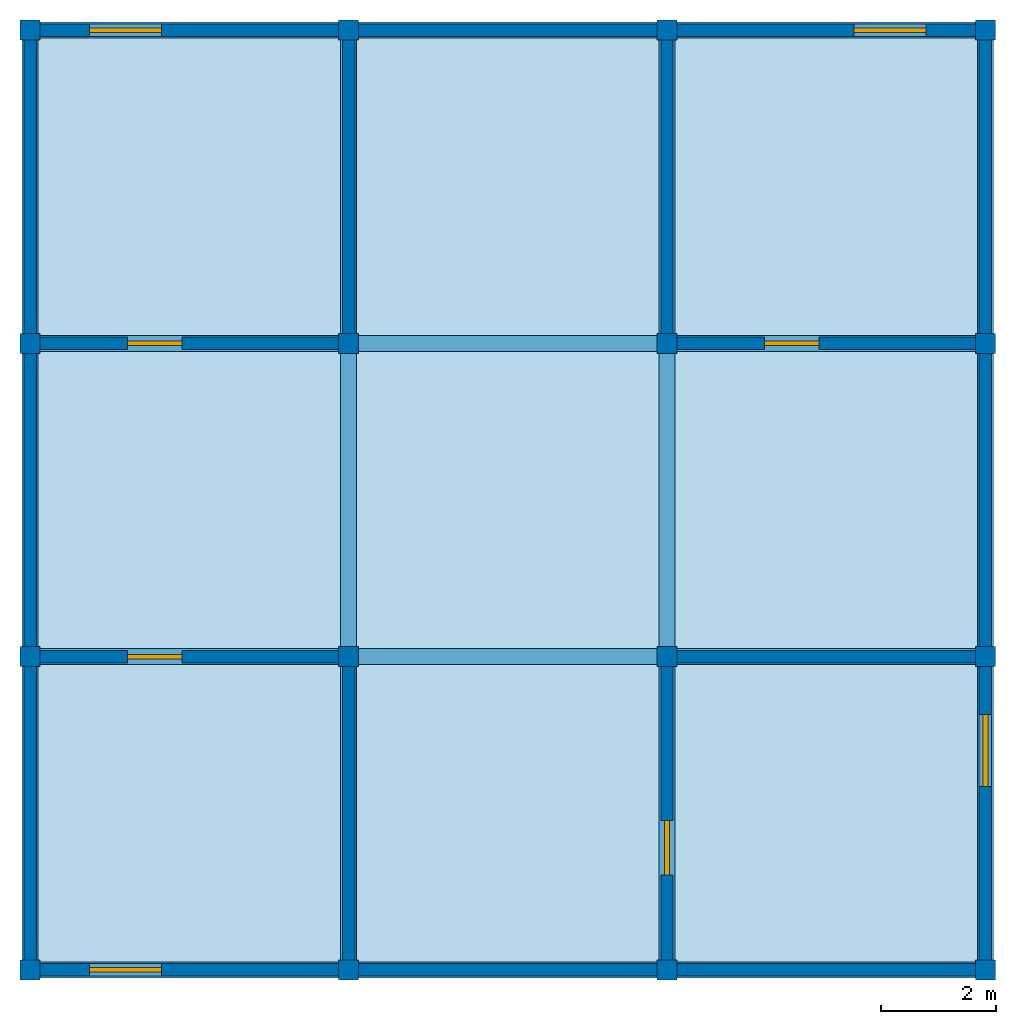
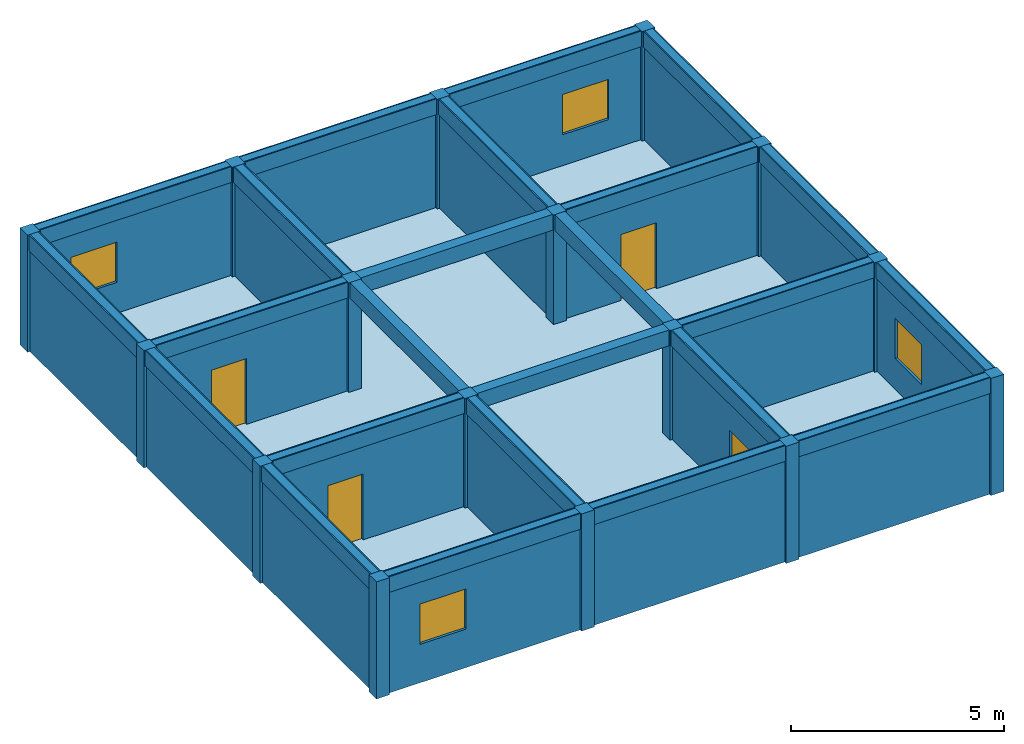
# One storey: 24 beams, 20 walls, 16 columns, 4 doors, 4 windows, 1 slab, 8 openings.
"""IFC4X3 building model written with IfcOpenShell, lengths in metres."""

from ifc_helpers import new_model, si_unit, frame, origin_with_axes, origin_2d, place, context, project, spatial, rectangle, extrude, material, element, fill, save


model = new_model("IFC4X3")

# Units and contexts
model_context = context("Model", 3, precision=1e-05, world=origin_with_axes())
ifc_project = project(units=[si_unit("LENGTHUNIT", "METRE"), si_unit("AREAUNIT", "SQUARE_METRE"), si_unit("VOLUMEUNIT", "CUBIC_METRE")], contexts=[model_context])

# Site, building, storey
site = spatial("IfcSite", under=ifc_project, Name="La Serena Parcel", CompositionType="ELEMENT")
building = spatial("IfcBuilding", under=site, Name="Atlas Building", CompositionType="ELEMENT")
storey = spatial("IfcBuildingStorey", under=building, Name="Level 9", CompositionType="ELEMENT", Elevation=26.79)

# Columns
ifc_material_1 = material(Name="Timber")
column_1_placement = place(None, frame((-8.31, -8.175, 26.792), z_axis=(0.0, 0.0, 1.0), x_axis=(1.0, 0.0, 0.0)))
element("IfcColumn", 1, at=column_1_placement, inside=storey, material=ifc_material_1, Name="Column 9.1", ObjectType="Facade Column", PredefinedType="USERDEFINED", context=model_context, shape_type="SweptSolid", body=[
    extrude(rectangle(XDim=0.35, YDim=0.35, at=origin_2d()), origin_with_axes(), (0.0, 0.0, 1.0), 3.349),
])
column_2_placement = place(None, frame((-8.31, -2.725, 26.792), z_axis=(0.0, 0.0, 1.0), x_axis=(1.0, 0.0, 0.0)))
element("IfcColumn", 2, at=column_2_placement, inside=storey, material=ifc_material_1, Name="Column 9.2", ObjectType="Corner Column", PredefinedType="COLUMN", context=model_context, shape_type="SweptSolid", body=[
    extrude(rectangle(XDim=0.35, YDim=0.35, at=origin_2d()), origin_with_axes(), (0.0, 0.0, 1.0), 3.349),
])
column_3_placement = place(None, frame((-8.31, 2.725, 26.792), z_axis=(0.0, 0.0, 1.0), x_axis=(1.0, 0.0, 0.0)))
element("IfcColumn", 3, at=column_3_placement, inside=storey, material=ifc_material_1, Name="Column 9.3", ObjectType="Core Column", PredefinedType="USERDEFINED", context=model_context, shape_type="SweptSolid", body=[
    extrude(rectangle(XDim=0.35, YDim=0.35, at=origin_2d()), origin_with_axes(), (0.0, 0.0, 1.0), 3.349),
])
column_4_placement = place(None, frame((-8.31, 8.175, 26.792), z_axis=(0.0, 0.0, 1.0), x_axis=(1.0, 0.0, 0.0)))
element("IfcColumn", 4, at=column_4_placement, inside=storey, material=ifc_material_1, Name="Column 9.4", ObjectType="Corner Column", PredefinedType="COLUMN", context=model_context, shape_type="SweptSolid", body=[
    extrude(rectangle(XDim=0.35, YDim=0.35, at=origin_2d()), origin_with_axes(), (0.0, 0.0, 1.0), 3.349),
])
column_5_placement = place(None, frame((-2.77, -8.175, 26.792), z_axis=(0.0, 0.0, 1.0), x_axis=(1.0, 0.0, 0.0)))
element("IfcColumn", 5, at=column_5_placement, inside=storey, material=ifc_material_1, Name="Column 9.5", ObjectType="Facade Column", PredefinedType="NOTDEFINED", context=model_context, shape_type="SweptSolid", body=[
    extrude(rectangle(XDim=0.35, YDim=0.35, at=origin_2d()), origin_with_axes(), (0.0, 0.0, 1.0), 3.349),
])
column_6_placement = place(None, frame((-2.77, -2.725, 26.792), z_axis=(0.0, 0.0, 1.0), x_axis=(1.0, 0.0, 0.0)))
element("IfcColumn", 6, at=column_6_placement, inside=storey, material=ifc_material_1, Name="Column 9.6", ObjectType="Structural Column", PredefinedType="COLUMN", context=model_context, shape_type="SweptSolid", body=[
    extrude(rectangle(XDim=0.35, YDim=0.35, at=origin_2d()), origin_with_axes(), (0.0, 0.0, 1.0), 3.349),
])
for number, where, z_axis, x_axis, name in (
    (7, (-2.77, 2.725, 26.792), (0.0, 0.0, 1.0), (1.0, 0.0, 0.0), "Column 9.7"),
    (8, (-2.77, 8.175, 26.792), (0.0, 0.0, 1.0), (1.0, 0.0, 0.0), "Column 9.8"),
):
    element("IfcColumn", number, at=place(None, frame(where, z_axis=z_axis, x_axis=x_axis)), inside=storey, material=ifc_material_1, Name=name, ObjectType="Core Column", PredefinedType="COLUMN", context=model_context, shape_type="SweptSolid", body=[
        extrude(rectangle(XDim=0.35, YDim=0.35, at=origin_2d()), origin_with_axes(), (0.0, 0.0, 1.0), 3.349),
    ])
column_7_placement = place(None, frame((2.77, -8.175, 26.792), z_axis=(0.0, 0.0, 1.0), x_axis=(1.0, 0.0, 0.0)))
element("IfcColumn", 9, at=column_7_placement, inside=storey, material=ifc_material_1, Name="Column 9.9", ObjectType="Facade Column", PredefinedType="COLUMN", context=model_context, shape_type="SweptSolid", body=[
    extrude(rectangle(XDim=0.35, YDim=0.35, at=origin_2d()), origin_with_axes(), (0.0, 0.0, 1.0), 3.349),
])
column_8_placement = place(None, frame((2.77, -2.725, 26.792), z_axis=(0.0, 0.0, 1.0), x_axis=(1.0, 0.0, 0.0)))
element("IfcColumn", 10, at=column_8_placement, inside=storey, material=ifc_material_1, Name="Column 9.10", ObjectType="Facade Column", PredefinedType="NOTDEFINED", context=model_context, shape_type="SweptSolid", body=[
    extrude(rectangle(XDim=0.35, YDim=0.35, at=origin_2d()), origin_with_axes(), (0.0, 0.0, 1.0), 3.349),
])
column_9_placement = place(None, frame((2.77, 2.725, 26.792), z_axis=(0.0, 0.0, 1.0), x_axis=(1.0, 0.0, 0.0)))
element("IfcColumn", 11, at=column_9_placement, inside=storey, material=ifc_material_1, Name="Column 9.11", ObjectType="Core Column", PredefinedType="NOTDEFINED", context=model_context, shape_type="SweptSolid", body=[
    extrude(rectangle(XDim=0.35, YDim=0.35, at=origin_2d()), origin_with_axes(), (0.0, 0.0, 1.0), 3.349),
])
column_10_placement = place(None, frame((2.77, 8.175, 26.792), z_axis=(0.0, 0.0, 1.0), x_axis=(1.0, 0.0, 0.0)))
element("IfcColumn", 12, at=column_10_placement, inside=storey, material=ifc_material_1, Name="Column 9.12", ObjectType="Corner Column", PredefinedType="NOTDEFINED", context=model_context, shape_type="SweptSolid", body=[
    extrude(rectangle(XDim=0.35, YDim=0.35, at=origin_2d()), origin_with_axes(), (0.0, 0.0, 1.0), 3.349),
])
column_11_placement = place(None, frame((8.31, -8.175, 26.792), z_axis=(0.0, 0.0, 1.0), x_axis=(1.0, 0.0, 0.0)))
element("IfcColumn", 13, at=column_11_placement, inside=storey, material=ifc_material_1, Name="Column 9.13", ObjectType="Corner Column", PredefinedType="PILASTER", context=model_context, shape_type="SweptSolid", body=[
    extrude(rectangle(XDim=0.35, YDim=0.35, at=origin_2d()), origin_with_axes(), (0.0, 0.0, 1.0), 3.349),
])
column_12_placement = place(None, frame((8.31, -2.725, 26.792), z_axis=(0.0, 0.0, 1.0), x_axis=(1.0, 0.0, 0.0)))
element("IfcColumn", 14, at=column_12_placement, inside=storey, material=ifc_material_1, Name="Column 9.14", ObjectType="Structural Column", PredefinedType="NOTDEFINED", context=model_context, shape_type="SweptSolid", body=[
    extrude(rectangle(XDim=0.35, YDim=0.35, at=origin_2d()), origin_with_axes(), (0.0, 0.0, 1.0), 3.349),
])
column_13_placement = place(None, frame((8.31, 2.725, 26.792), z_axis=(0.0, 0.0, 1.0), x_axis=(1.0, 0.0, 0.0)))
element("IfcColumn", 15, at=column_13_placement, inside=storey, material=ifc_material_1, Name="Column 9.15", ObjectType="Corner Column", PredefinedType="COLUMN", context=model_context, shape_type="SweptSolid", body=[
    extrude(rectangle(XDim=0.35, YDim=0.35, at=origin_2d()), origin_with_axes(), (0.0, 0.0, 1.0), 3.349),
])
column_14_placement = place(None, frame((8.31, 8.175, 26.792), z_axis=(0.0, 0.0, 1.0), x_axis=(1.0, 0.0, 0.0)))
element("IfcColumn", 16, at=column_14_placement, inside=storey, material=ifc_material_1, Name="Column 9.16", ObjectType="Structural Column", PredefinedType="PILASTER", context=model_context, shape_type="SweptSolid", body=[
    extrude(rectangle(XDim=0.35, YDim=0.35, at=origin_2d()), origin_with_axes(), (0.0, 0.0, 1.0), 3.349),
])

# Beams
ifc_material_2 = material(Name="Concrete")
beam_1_placement = place(None, frame((-5.54, -8.175, 29.691), z_axis=(0.0, 0.0, 1.0), x_axis=(1.0, 0.0, 0.0)))
element("IfcBeam", 17, at=beam_1_placement, inside=storey, material=ifc_material_2, Name="Beam 9.1", ObjectType="Secondary Beam", PredefinedType="HOLLOWCORE", context=model_context, shape_type="SweptSolid", body=[
    extrude(rectangle(XDim=5.54, YDim=0.28, at=origin_2d()), origin_with_axes(), (0.0, 0.0, 1.0), 0.45),
])
beam_2_placement = place(None, frame((0.0, -8.175, 29.691), z_axis=(0.0, 0.0, 1.0), x_axis=(1.0, 0.0, 0.0)))
element("IfcBeam", 18, at=beam_2_placement, inside=storey, material=ifc_material_2, Name="Beam 9.2", ObjectType="Ridge Beam", PredefinedType="NOTDEFINED", context=model_context, shape_type="SweptSolid", body=[
    extrude(rectangle(XDim=5.54, YDim=0.28, at=origin_2d()), origin_with_axes(), (0.0, 0.0, 1.0), 0.45),
])
beam_3_placement = place(None, frame((5.54, -8.175, 29.691), z_axis=(0.0, 0.0, 1.0), x_axis=(1.0, 0.0, 0.0)))
element("IfcBeam", 19, at=beam_3_placement, inside=storey, material=ifc_material_2, Name="Beam 9.3", ObjectType="Rafter Beam", PredefinedType="USERDEFINED", context=model_context, shape_type="SweptSolid", body=[
    extrude(rectangle(XDim=5.54, YDim=0.28, at=origin_2d()), origin_with_axes(), (0.0, 0.0, 1.0), 0.45),
])
for number, where, z_axis, x_axis, name in (
    (20, (-5.54, -2.725, 29.691), (0.0, 0.0, 1.0), (1.0, 0.0, 0.0), "Beam 9.4"),
    (21, (0.0, -2.725, 29.691), (0.0, 0.0, 1.0), (1.0, 0.0, 0.0), "Beam 9.5"),
):
    element("IfcBeam", number, at=place(None, frame(where, z_axis=z_axis, x_axis=x_axis)), inside=storey, material=ifc_material_2, Name=name, ObjectType="Ridge Beam", PredefinedType="LINTEL", context=model_context, shape_type="SweptSolid", body=[
        extrude(rectangle(XDim=5.54, YDim=0.28, at=origin_2d()), origin_with_axes(), (0.0, 0.0, 1.0), 0.45),
    ])
beam_4_placement = place(None, frame((5.54, -2.725, 29.691), z_axis=(0.0, 0.0, 1.0), x_axis=(1.0, 0.0, 0.0)))
element("IfcBeam", 22, at=beam_4_placement, inside=storey, material=ifc_material_2, Name="Beam 9.6", ObjectType="Secondary Beam", PredefinedType="NOTDEFINED", context=model_context, shape_type="SweptSolid", body=[
    extrude(rectangle(XDim=5.54, YDim=0.28, at=origin_2d()), origin_with_axes(), (0.0, 0.0, 1.0), 0.45),
])
beam_5_placement = place(None, frame((-5.54, 2.725, 29.691), z_axis=(0.0, 0.0, 1.0), x_axis=(1.0, 0.0, 0.0)))
element("IfcBeam", 23, at=beam_5_placement, inside=storey, material=ifc_material_2, Name="Beam 9.7", ObjectType="Transfer Beam", PredefinedType="BEAM", context=model_context, shape_type="SweptSolid", body=[
    extrude(rectangle(XDim=5.54, YDim=0.28, at=origin_2d()), origin_with_axes(), (0.0, 0.0, 1.0), 0.45),
])
beam_6_placement = place(None, frame((0.0, 2.725, 29.691), z_axis=(0.0, 0.0, 1.0), x_axis=(1.0, 0.0, 0.0)))
element("IfcBeam", 24, at=beam_6_placement, inside=storey, material=ifc_material_2, Name="Beam 9.8", ObjectType="Rafter Beam", PredefinedType="JOIST", context=model_context, shape_type="SweptSolid", body=[
    extrude(rectangle(XDim=5.54, YDim=0.28, at=origin_2d()), origin_with_axes(), (0.0, 0.0, 1.0), 0.45),
])
beam_7_placement = place(None, frame((5.54, 2.725, 29.691), z_axis=(0.0, 0.0, 1.0), x_axis=(1.0, 0.0, 0.0)))
element("IfcBeam", 25, at=beam_7_placement, inside=storey, material=ifc_material_2, Name="Beam 9.9", ObjectType="Secondary Beam", PredefinedType="LINTEL", context=model_context, shape_type="SweptSolid", body=[
    extrude(rectangle(XDim=5.54, YDim=0.28, at=origin_2d()), origin_with_axes(), (0.0, 0.0, 1.0), 0.45),
])
beam_8_placement = place(None, frame((-5.54, 8.175, 29.691), z_axis=(0.0, 0.0, 1.0), x_axis=(1.0, 0.0, 0.0)))
element("IfcBeam", 26, at=beam_8_placement, inside=storey, material=ifc_material_2, Name="Beam 9.10", ObjectType="Ridge Beam", PredefinedType="NOTDEFINED", context=model_context, shape_type="SweptSolid", body=[
    extrude(rectangle(XDim=5.54, YDim=0.28, at=origin_2d()), origin_with_axes(), (0.0, 0.0, 1.0), 0.45),
])
beam_9_placement = place(None, frame((0.0, 8.175, 29.691), z_axis=(0.0, 0.0, 1.0), x_axis=(1.0, 0.0, 0.0)))
element("IfcBeam", 27, at=beam_9_placement, inside=storey, material=ifc_material_2, Name="Beam 9.11", ObjectType="Ridge Beam", PredefinedType="USERDEFINED", context=model_context, shape_type="SweptSolid", body=[
    extrude(rectangle(XDim=5.54, YDim=0.28, at=origin_2d()), origin_with_axes(), (0.0, 0.0, 1.0), 0.45),
])
beam_10_placement = place(None, frame((5.54, 8.175, 29.691), z_axis=(0.0, 0.0, 1.0), x_axis=(1.0, 0.0, 0.0)))
element("IfcBeam", 28, at=beam_10_placement, inside=storey, material=ifc_material_2, Name="Beam 9.12", ObjectType="Rafter Beam", PredefinedType="BEAM", context=model_context, shape_type="SweptSolid", body=[
    extrude(rectangle(XDim=5.54, YDim=0.28, at=origin_2d()), origin_with_axes(), (0.0, 0.0, 1.0), 0.45),
])
beam_11_placement = place(None, frame((-8.31, -5.45, 29.691), z_axis=(0.0, 0.0, 1.0), x_axis=(0.0, 1.0, 0.0)))
element("IfcBeam", 29, at=beam_11_placement, inside=storey, material=ifc_material_2, Name="Beam 9.13", ObjectType="Ridge Beam", PredefinedType="BEAM", context=model_context, shape_type="SweptSolid", body=[
    extrude(rectangle(XDim=5.45, YDim=0.28, at=origin_2d()), origin_with_axes(), (0.0, 0.0, 1.0), 0.45),
])
beam_12_placement = place(None, frame((-8.31, 0.0, 29.691), z_axis=(0.0, 0.0, 1.0), x_axis=(0.0, 1.0, 0.0)))
element("IfcBeam", 30, at=beam_12_placement, inside=storey, material=ifc_material_2, Name="Beam 9.14", ObjectType="Primary Beam", PredefinedType="NOTDEFINED", context=model_context, shape_type="SweptSolid", body=[
    extrude(rectangle(XDim=5.45, YDim=0.28, at=origin_2d()), origin_with_axes(), (0.0, 0.0, 1.0), 0.45),
])
beam_13_placement = place(None, frame((-8.31, 5.45, 29.691), z_axis=(0.0, 0.0, 1.0), x_axis=(0.0, 1.0, 0.0)))
element("IfcBeam", 31, at=beam_13_placement, inside=storey, material=ifc_material_2, Name="Beam 9.15", ObjectType="Ridge Beam", PredefinedType="NOTDEFINED", context=model_context, shape_type="SweptSolid", body=[
    extrude(rectangle(XDim=5.45, YDim=0.28, at=origin_2d()), origin_with_axes(), (0.0, 0.0, 1.0), 0.45),
])
beam_14_placement = place(None, frame((-2.77, -5.45, 29.691), z_axis=(0.0, 0.0, 1.0), x_axis=(0.0, 1.0, 0.0)))
element("IfcBeam", 32, at=beam_14_placement, inside=storey, material=ifc_material_2, Name="Beam 9.16", ObjectType="Primary Beam", PredefinedType="USERDEFINED", context=model_context, shape_type="SweptSolid", body=[
    extrude(rectangle(XDim=5.45, YDim=0.28, at=origin_2d()), origin_with_axes(), (0.0, 0.0, 1.0), 0.45),
])
for number, where, z_axis, x_axis, name in (
    (33, (-2.77, 0.0, 29.691), (0.0, 0.0, 1.0), (0.0, 1.0, 0.0), "Beam 9.17"),
    (34, (-2.77, 5.45, 29.691), (0.0, 0.0, 1.0), (0.0, 1.0, 0.0), "Beam 9.18"),
):
    element("IfcBeam", number, at=place(None, frame(where, z_axis=z_axis, x_axis=x_axis)), inside=storey, material=ifc_material_2, Name=name, ObjectType="Transfer Beam", PredefinedType="SPANDREL", context=model_context, shape_type="SweptSolid", body=[
        extrude(rectangle(XDim=5.45, YDim=0.28, at=origin_2d()), origin_with_axes(), (0.0, 0.0, 1.0), 0.45),
    ])
beam_15_placement = place(None, frame((2.77, -5.45, 29.691), z_axis=(0.0, 0.0, 1.0), x_axis=(0.0, 1.0, 0.0)))
element("IfcBeam", 35, at=beam_15_placement, inside=storey, material=ifc_material_2, Name="Beam 9.19", ObjectType="Secondary Beam", PredefinedType="HOLLOWCORE", context=model_context, shape_type="SweptSolid", body=[
    extrude(rectangle(XDim=5.45, YDim=0.28, at=origin_2d()), origin_with_axes(), (0.0, 0.0, 1.0), 0.45),
])
beam_16_placement = place(None, frame((2.77, 0.0, 29.691), z_axis=(0.0, 0.0, 1.0), x_axis=(0.0, 1.0, 0.0)))
element("IfcBeam", 36, at=beam_16_placement, inside=storey, material=ifc_material_2, Name="Beam 9.20", ObjectType="Primary Beam", PredefinedType="HOLLOWCORE", context=model_context, shape_type="SweptSolid", body=[
    extrude(rectangle(XDim=5.45, YDim=0.28, at=origin_2d()), origin_with_axes(), (0.0, 0.0, 1.0), 0.45),
])
beam_17_placement = place(None, frame((2.77, 5.45, 29.691), z_axis=(0.0, 0.0, 1.0), x_axis=(0.0, 1.0, 0.0)))
element("IfcBeam", 37, at=beam_17_placement, inside=storey, material=ifc_material_2, Name="Beam 9.21", ObjectType="Primary Beam", PredefinedType="NOTDEFINED", context=model_context, shape_type="SweptSolid", body=[
    extrude(rectangle(XDim=5.45, YDim=0.28, at=origin_2d()), origin_with_axes(), (0.0, 0.0, 1.0), 0.45),
])
beam_18_placement = place(None, frame((8.31, -5.45, 29.691), z_axis=(0.0, 0.0, 1.0), x_axis=(0.0, 1.0, 0.0)))
element("IfcBeam", 38, at=beam_18_placement, inside=storey, material=ifc_material_2, Name="Beam 9.22", ObjectType="Rafter Beam", PredefinedType="HOLLOWCORE", context=model_context, shape_type="SweptSolid", body=[
    extrude(rectangle(XDim=5.45, YDim=0.28, at=origin_2d()), origin_with_axes(), (0.0, 0.0, 1.0), 0.45),
])
beam_19_placement = place(None, frame((8.31, 0.0, 29.691), z_axis=(0.0, 0.0, 1.0), x_axis=(0.0, 1.0, 0.0)))
element("IfcBeam", 39, at=beam_19_placement, inside=storey, material=ifc_material_2, Name="Beam 9.23", ObjectType="Rafter Beam", PredefinedType="USERDEFINED", context=model_context, shape_type="SweptSolid", body=[
    extrude(rectangle(XDim=5.45, YDim=0.28, at=origin_2d()), origin_with_axes(), (0.0, 0.0, 1.0), 0.45),
])
beam_20_placement = place(None, frame((8.31, 5.45, 29.691), z_axis=(0.0, 0.0, 1.0), x_axis=(0.0, 1.0, 0.0)))
element("IfcBeam", 40, at=beam_20_placement, inside=storey, material=ifc_material_2, Name="Beam 9.24", ObjectType="Rafter Beam", PredefinedType="SPANDREL", context=model_context, shape_type="SweptSolid", body=[
    extrude(rectangle(XDim=5.45, YDim=0.28, at=origin_2d()), origin_with_axes(), (0.0, 0.0, 1.0), 0.45),
])

# Slab
slab_placement = place(None, frame((0.0, 0.0, 26.79), z_axis=(0.0, 0.0, 1.0), x_axis=(1.0, 0.0, 0.0)))
element("IfcSlab", 41, at=slab_placement, inside=storey, material=ifc_material_2, Name="Slab 9", ObjectType="Floor Slab", PredefinedType="FLOOR", context=model_context, shape_type="SweptSolid", body=[
    extrude(rectangle(XDim=16.62, YDim=16.35, at=origin_2d()), origin_with_axes(), (0.0, 0.0, 1.0), 0.22),
])

# Wall, opening, door
ifc_material_3 = material(Name="Gypsum")
wall_1_placement = place(None, frame((-5.54, -2.725, 26.792), z_axis=(0.0, 0.0, 1.0), x_axis=(1.0, 0.0, 0.0)))
wall_1 = element("IfcWall", 42, at=wall_1_placement, inside=storey, material=ifc_material_3, Name="Wall 9.1", ObjectType="Corridor Partition", PredefinedType="PLUMBINGWALL", context=model_context, shape_type="SweptSolid", body=[
    extrude(rectangle(XDim=5.54, YDim=0.216966, at=origin_2d()), origin_with_axes(), (0.0, 0.0, 1.0), 3.349),
])
opening_1_placement = place(None, frame((-6.14, -2.725, 26.792), z_axis=(0.0, 0.0, 1.0), x_axis=(1.0, 0.0, 0.0)))
opening_1 = element("IfcOpeningElement", 43, at=opening_1_placement, cuts=wall_1, Name="Door opening 9.1", ObjectType="Door Opening", PredefinedType="OPENING", context=model_context, shape_type="SweptSolid", body=[
    extrude(rectangle(XDim=0.95, YDim=0.296966, at=origin_2d()), origin_with_axes(), (0.0, 0.0, 1.0), 2.1),
])
door_1_placement = place(None, frame((-6.14, -2.725, 26.792), z_axis=(0.0, 0.0, 1.0), x_axis=(1.0, 0.0, 0.0)))
door_1 = element("IfcDoor", 44, at=door_1_placement, inside=storey, Name="Door 9.1", ObjectType="Interior Door", OverallHeight=2.1, OverallWidth=0.95, context=model_context, shape_type="SweptSolid", body=[
    extrude(rectangle(XDim=0.95, YDim=0.08, at=origin_2d()), origin_with_axes(), (0.0, 0.0, 1.0), 2.1),
])
fill(opening_1, door_1)

# Wall
ifc_material_4 = material(Name="Brick")
wall_2_placement = place(None, frame((-2.77, -5.45, 26.792), z_axis=(0.0, 0.0, 1.0), x_axis=(0.0, 1.0, 0.0)))
element("IfcWall", 45, at=wall_2_placement, inside=storey, material=ifc_material_4, Name="Wall 9.2", ObjectType="Corridor Partition", PredefinedType="STANDARD", context=model_context, shape_type="SweptSolid", body=[
    extrude(rectangle(XDim=5.45, YDim=0.216966, at=origin_2d()), origin_with_axes(), (0.0, 0.0, 1.0), 3.349),
])

# Wall, opening, window
ifc_material_5 = material(Name="CLT")
wall_3_placement = place(None, frame((-5.54, -8.175, 26.792), z_axis=(0.0, 0.0, 1.0), x_axis=(1.0, 0.0, 0.0)))
wall_3 = element("IfcWall", 46, at=wall_3_placement, inside=storey, material=ifc_material_5, Name="Wall 9.3", ObjectType="Exterior Wall", PredefinedType="SOLIDWALL", context=model_context, shape_type="SweptSolid", body=[
    extrude(rectangle(XDim=5.54, YDim=0.216966, at=origin_2d()), origin_with_axes(), (0.0, 0.0, 1.0), 3.349),
])
opening_2_placement = place(None, frame((-6.648, -8.175, 27.892), z_axis=(0.0, 0.0, 1.0), x_axis=(1.0, 0.0, 0.0)))
opening_2 = element("IfcOpeningElement", 47, at=opening_2_placement, cuts=wall_3, Name="Window opening 9.2", ObjectType="Window Opening", PredefinedType="OPENING", context=model_context, shape_type="SweptSolid", body=[
    extrude(rectangle(XDim=1.25, YDim=0.296966, at=origin_2d()), origin_with_axes(), (0.0, 0.0, 1.0), 1.15),
])
window_1_placement = place(None, frame((-6.648, -8.175, 27.892), z_axis=(0.0, 0.0, 1.0), x_axis=(1.0, 0.0, 0.0)))
window_1 = element("IfcWindow", 48, at=window_1_placement, inside=storey, Name="Window 9.2", ObjectType="Fixed Window", OverallHeight=1.15, OverallWidth=1.25, context=model_context, shape_type="SweptSolid", body=[
    extrude(rectangle(XDim=1.25, YDim=0.08, at=origin_2d()), origin_with_axes(), (0.0, 0.0, 1.0), 1.15),
])
fill(opening_2, window_1)

# Wall
wall_4_placement = place(None, frame((-8.31, -5.45, 26.792), z_axis=(0.0, 0.0, 1.0), x_axis=(0.0, 1.0, 0.0)))
element("IfcWall", 49, at=wall_4_placement, inside=storey, material=ifc_material_4, Name="Wall 9.4", ObjectType="Exterior Wall", PredefinedType="SHEAR", context=model_context, shape_type="SweptSolid", body=[
    extrude(rectangle(XDim=5.45, YDim=0.216966, at=origin_2d()), origin_with_axes(), (0.0, 0.0, 1.0), 3.349),
])

# Wall, opening, door
wall_5_placement = place(None, frame((2.77, -5.45, 26.792), z_axis=(0.0, 0.0, 1.0), x_axis=(0.0, 1.0, 0.0)))
wall_5 = element("IfcWall", 50, at=wall_5_placement, inside=storey, material=ifc_material_5, Name="Wall 9.5", ObjectType="Corridor Partition", PredefinedType="PARTITIONING", context=model_context, shape_type="SweptSolid", body=[
    extrude(rectangle(XDim=5.45, YDim=0.216966, at=origin_2d()), origin_with_axes(), (0.0, 0.0, 1.0), 3.349),
])
opening_3_placement = place(None, frame((2.77, -6.05, 26.792), z_axis=(0.0, 0.0, 1.0), x_axis=(0.0, 1.0, 0.0)))
opening_3 = element("IfcOpeningElement", 51, at=opening_3_placement, cuts=wall_5, Name="Door opening 9.3", ObjectType="Door Opening", PredefinedType="OPENING", context=model_context, shape_type="SweptSolid", body=[
    extrude(rectangle(XDim=0.95, YDim=0.296966, at=origin_2d()), origin_with_axes(), (0.0, 0.0, 1.0), 2.1),
])
door_2_placement = place(None, frame((2.77, -6.05, 26.792), z_axis=(0.0, 0.0, 1.0), x_axis=(0.0, 1.0, 0.0)))
door_2 = element("IfcDoor", 52, at=door_2_placement, inside=storey, Name="Door 9.3", ObjectType="Fire Door", OverallHeight=2.1, OverallWidth=0.95, context=model_context, shape_type="SweptSolid", body=[
    extrude(rectangle(XDim=0.95, YDim=0.08, at=origin_2d()), origin_with_axes(), (0.0, 0.0, 1.0), 2.1),
])
fill(opening_3, door_2)

# Walls
wall_6_placement = place(None, frame((0.0, -8.175, 26.792), z_axis=(0.0, 0.0, 1.0), x_axis=(1.0, 0.0, 0.0)))
element("IfcWall", 53, at=wall_6_placement, inside=storey, material=ifc_material_5, Name="Wall 9.6", ObjectType="Exterior Wall", PredefinedType="STANDARD", context=model_context, shape_type="SweptSolid", body=[
    extrude(rectangle(XDim=5.54, YDim=0.216966, at=origin_2d()), origin_with_axes(), (0.0, 0.0, 1.0), 3.349),
])
wall_7_placement = place(None, frame((5.54, -2.725, 26.792), z_axis=(0.0, 0.0, 1.0), x_axis=(1.0, 0.0, 0.0)))
element("IfcWall", 54, at=wall_7_placement, inside=storey, material=ifc_material_4, Name="Wall 9.7", ObjectType="Corridor Partition", PredefinedType="ELEMENTEDWALL", context=model_context, shape_type="SweptSolid", body=[
    extrude(rectangle(XDim=5.54, YDim=0.216966, at=origin_2d()), origin_with_axes(), (0.0, 0.0, 1.0), 3.349),
])

# Wall, opening, window
wall_8_placement = place(None, frame((8.31, -5.45, 26.792), z_axis=(0.0, 0.0, 1.0), x_axis=(0.0, 1.0, 0.0)))
wall_8 = element("IfcWall", 55, at=wall_8_placement, inside=storey, material=ifc_material_5, Name="Wall 9.8", ObjectType="Exterior Wall", PredefinedType="SHEAR", context=model_context, shape_type="SweptSolid", body=[
    extrude(rectangle(XDim=5.45, YDim=0.216966, at=origin_2d()), origin_with_axes(), (0.0, 0.0, 1.0), 3.349),
])
opening_4_placement = place(None, frame((8.31, -4.36, 27.892), z_axis=(0.0, 0.0, 1.0), x_axis=(0.0, 1.0, 0.0)))
opening_4 = element("IfcOpeningElement", 56, at=opening_4_placement, cuts=wall_8, Name="Window opening 9.4", ObjectType="Window Opening", PredefinedType="OPENING", context=model_context, shape_type="SweptSolid", body=[
    extrude(rectangle(XDim=1.25, YDim=0.296966, at=origin_2d()), origin_with_axes(), (0.0, 0.0, 1.0), 1.15),
])
window_2_placement = place(None, frame((8.31, -4.36, 27.892), z_axis=(0.0, 0.0, 1.0), x_axis=(0.0, 1.0, 0.0)))
window_2 = element("IfcWindow", 57, at=window_2_placement, inside=storey, Name="Window 9.4", ObjectType="Curtain Window", OverallHeight=1.15, OverallWidth=1.25, context=model_context, shape_type="SweptSolid", body=[
    extrude(rectangle(XDim=1.25, YDim=0.08, at=origin_2d()), origin_with_axes(), (0.0, 0.0, 1.0), 1.15),
])
fill(opening_4, window_2)

# Wall
wall_9_placement = place(None, frame((5.54, -8.175, 26.792), z_axis=(0.0, 0.0, 1.0), x_axis=(1.0, 0.0, 0.0)))
element("IfcWall", 58, at=wall_9_placement, inside=storey, material=ifc_material_5, Name="Wall 9.9", ObjectType="Exterior Wall", PredefinedType="ELEMENTEDWALL", context=model_context, shape_type="SweptSolid", body=[
    extrude(rectangle(XDim=5.54, YDim=0.216966, at=origin_2d()), origin_with_axes(), (0.0, 0.0, 1.0), 3.349),
])

# Wall, opening, door
wall_10_placement = place(None, frame((-5.54, 2.725, 26.792), z_axis=(0.0, 0.0, 1.0), x_axis=(1.0, 0.0, 0.0)))
wall_10 = element("IfcWall", 59, at=wall_10_placement, inside=storey, material=ifc_material_5, Name="Wall 9.10", ObjectType="Corridor Partition", PredefinedType="PARAPET", context=model_context, shape_type="SweptSolid", body=[
    extrude(rectangle(XDim=5.54, YDim=0.216966, at=origin_2d()), origin_with_axes(), (0.0, 0.0, 1.0), 3.349),
])
opening_5_placement = place(None, frame((-6.14, 2.725, 26.792), z_axis=(0.0, 0.0, 1.0), x_axis=(1.0, 0.0, 0.0)))
opening_5 = element("IfcOpeningElement", 60, at=opening_5_placement, cuts=wall_10, Name="Door opening 9.5", ObjectType="Door Opening", PredefinedType="OPENING", context=model_context, shape_type="SweptSolid", body=[
    extrude(rectangle(XDim=0.95, YDim=0.296966, at=origin_2d()), origin_with_axes(), (0.0, 0.0, 1.0), 2.1),
])
door_3_placement = place(None, frame((-6.14, 2.725, 26.792), z_axis=(0.0, 0.0, 1.0), x_axis=(1.0, 0.0, 0.0)))
door_3 = element("IfcDoor", 61, at=door_3_placement, inside=storey, Name="Door 9.5", ObjectType="Entry Door", OverallHeight=2.1, OverallWidth=0.95, context=model_context, shape_type="SweptSolid", body=[
    extrude(rectangle(XDim=0.95, YDim=0.08, at=origin_2d()), origin_with_axes(), (0.0, 0.0, 1.0), 2.1),
])
fill(opening_5, door_3)

# Wall
wall_11_placement = place(None, frame((-8.31, 0.0, 26.792), z_axis=(0.0, 0.0, 1.0), x_axis=(0.0, 1.0, 0.0)))
element("IfcWall", 62, at=wall_11_placement, inside=storey, material=ifc_material_4, Name="Wall 9.11", ObjectType="Exterior Wall", PredefinedType="STANDARD", context=model_context, shape_type="SweptSolid", body=[
    extrude(rectangle(XDim=5.45, YDim=0.216966, at=origin_2d()), origin_with_axes(), (0.0, 0.0, 1.0), 3.349),
])

# Wall, opening, door
wall_12_placement = place(None, frame((5.54, 2.725, 26.792), z_axis=(0.0, 0.0, 1.0), x_axis=(1.0, 0.0, 0.0)))
wall_12 = element("IfcWall", 63, at=wall_12_placement, inside=storey, material=ifc_material_2, Name="Wall 9.12", ObjectType="Corridor Partition", PredefinedType="SOLIDWALL", context=model_context, shape_type="SweptSolid", body=[
    extrude(rectangle(XDim=5.54, YDim=0.216966, at=origin_2d()), origin_with_axes(), (0.0, 0.0, 1.0), 3.349),
])
opening_6_placement = place(None, frame((4.94, 2.725, 26.792), z_axis=(0.0, 0.0, 1.0), x_axis=(1.0, 0.0, 0.0)))
opening_6 = element("IfcOpeningElement", 64, at=opening_6_placement, cuts=wall_12, Name="Door opening 9.7", ObjectType="Door Opening", PredefinedType="OPENING", context=model_context, shape_type="SweptSolid", body=[
    extrude(rectangle(XDim=0.95, YDim=0.296966, at=origin_2d()), origin_with_axes(), (0.0, 0.0, 1.0), 2.1),
])
door_4_placement = place(None, frame((4.94, 2.725, 26.792), z_axis=(0.0, 0.0, 1.0), x_axis=(1.0, 0.0, 0.0)))
door_4 = element("IfcDoor", 65, at=door_4_placement, inside=storey, Name="Door 9.7", ObjectType="Fire Door", OverallHeight=2.1, OverallWidth=0.95, context=model_context, shape_type="SweptSolid", body=[
    extrude(rectangle(XDim=0.95, YDim=0.08, at=origin_2d()), origin_with_axes(), (0.0, 0.0, 1.0), 2.1),
])
fill(opening_6, door_4)

# Wall
wall_13_placement = place(None, frame((8.31, 0.0, 26.792), z_axis=(0.0, 0.0, 1.0), x_axis=(0.0, 1.0, 0.0)))
element("IfcWall", 66, at=wall_13_placement, inside=storey, material=ifc_material_2, Name="Wall 9.13", ObjectType="Exterior Wall", PredefinedType="ELEMENTEDWALL", context=model_context, shape_type="SweptSolid", body=[
    extrude(rectangle(XDim=5.45, YDim=0.216966, at=origin_2d()), origin_with_axes(), (0.0, 0.0, 1.0), 3.349),
])

# Wall, opening, window
wall_14_placement = place(None, frame((-5.54, 8.175, 26.792), z_axis=(0.0, 0.0, 1.0), x_axis=(1.0, 0.0, 0.0)))
wall_14 = element("IfcWall", 67, at=wall_14_placement, inside=storey, material=ifc_material_5, Name="Wall 9.14", ObjectType="Exterior Wall", PredefinedType="POLYGONAL", context=model_context, shape_type="SweptSolid", body=[
    extrude(rectangle(XDim=5.54, YDim=0.216966, at=origin_2d()), origin_with_axes(), (0.0, 0.0, 1.0), 3.349),
])
opening_7_placement = place(None, frame((-6.648, 8.175, 27.892), z_axis=(0.0, 0.0, 1.0), x_axis=(1.0, 0.0, 0.0)))
opening_7 = element("IfcOpeningElement", 68, at=opening_7_placement, cuts=wall_14, Name="Window opening 9.6", ObjectType="Window Opening", PredefinedType="OPENING", context=model_context, shape_type="SweptSolid", body=[
    extrude(rectangle(XDim=1.25, YDim=0.296966, at=origin_2d()), origin_with_axes(), (0.0, 0.0, 1.0), 1.15),
])
window_3_placement = place(None, frame((-6.648, 8.175, 27.892), z_axis=(0.0, 0.0, 1.0), x_axis=(1.0, 0.0, 0.0)))
window_3 = element("IfcWindow", 69, at=window_3_placement, inside=storey, Name="Window 9.6", ObjectType="Operable Window", OverallHeight=1.15, OverallWidth=1.25, context=model_context, shape_type="SweptSolid", body=[
    extrude(rectangle(XDim=1.25, YDim=0.08, at=origin_2d()), origin_with_axes(), (0.0, 0.0, 1.0), 1.15),
])
fill(opening_7, window_3)

# Walls
wall_15_placement = place(None, frame((-2.77, 5.45, 26.792), z_axis=(0.0, 0.0, 1.0), x_axis=(0.0, 1.0, 0.0)))
element("IfcWall", 70, at=wall_15_placement, inside=storey, material=ifc_material_4, Name="Wall 9.15", ObjectType="Corridor Partition", PredefinedType="SHEAR", context=model_context, shape_type="SweptSolid", body=[
    extrude(rectangle(XDim=5.45, YDim=0.216966, at=origin_2d()), origin_with_axes(), (0.0, 0.0, 1.0), 3.349),
])
wall_16_placement = place(None, frame((-8.31, 5.45, 26.792), z_axis=(0.0, 0.0, 1.0), x_axis=(0.0, 1.0, 0.0)))
element("IfcWall", 71, at=wall_16_placement, inside=storey, material=ifc_material_2, Name="Wall 9.16", ObjectType="Exterior Wall", PredefinedType="PARTITIONING", context=model_context, shape_type="SweptSolid", body=[
    extrude(rectangle(XDim=5.45, YDim=0.216966, at=origin_2d()), origin_with_axes(), (0.0, 0.0, 1.0), 3.349),
])
wall_17_placement = place(None, frame((0.0, 8.175, 26.792), z_axis=(0.0, 0.0, 1.0), x_axis=(1.0, 0.0, 0.0)))
element("IfcWall", 72, at=wall_17_placement, inside=storey, material=ifc_material_2, Name="Wall 9.17", ObjectType="Exterior Wall", PredefinedType="PLUMBINGWALL", context=model_context, shape_type="SweptSolid", body=[
    extrude(rectangle(XDim=5.54, YDim=0.216966, at=origin_2d()), origin_with_axes(), (0.0, 0.0, 1.0), 3.349),
])
wall_18_placement = place(None, frame((2.77, 5.45, 26.792), z_axis=(0.0, 0.0, 1.0), x_axis=(0.0, 1.0, 0.0)))
element("IfcWall", 73, at=wall_18_placement, inside=storey, material=ifc_material_5, Name="Wall 9.18", ObjectType="Corridor Partition", PredefinedType="STANDARD", context=model_context, shape_type="SweptSolid", body=[
    extrude(rectangle(XDim=5.45, YDim=0.216966, at=origin_2d()), origin_with_axes(), (0.0, 0.0, 1.0), 3.349),
])

# Wall, opening, window
wall_19_placement = place(None, frame((5.54, 8.175, 26.792), z_axis=(0.0, 0.0, 1.0), x_axis=(1.0, 0.0, 0.0)))
wall_19 = element("IfcWall", 74, at=wall_19_placement, inside=storey, material=ifc_material_4, Name="Wall 9.19", ObjectType="Exterior Wall", PredefinedType="USERDEFINED", context=model_context, shape_type="SweptSolid", body=[
    extrude(rectangle(XDim=5.54, YDim=0.216966, at=origin_2d()), origin_with_axes(), (0.0, 0.0, 1.0), 3.349),
])
opening_8_placement = place(None, frame((6.648, 8.175, 27.892), z_axis=(0.0, 0.0, 1.0), x_axis=(1.0, 0.0, 0.0)))
opening_8 = element("IfcOpeningElement", 75, at=opening_8_placement, cuts=wall_19, Name="Window opening 9.8", ObjectType="Window Opening", PredefinedType="OPENING", context=model_context, shape_type="SweptSolid", body=[
    extrude(rectangle(XDim=1.25, YDim=0.296966, at=origin_2d()), origin_with_axes(), (0.0, 0.0, 1.0), 1.15),
])
window_4_placement = place(None, frame((6.648, 8.175, 27.892), z_axis=(0.0, 0.0, 1.0), x_axis=(1.0, 0.0, 0.0)))
window_4 = element("IfcWindow", 76, at=window_4_placement, inside=storey, Name="Window 9.8", ObjectType="Operable Window", OverallHeight=1.15, OverallWidth=1.25, context=model_context, shape_type="SweptSolid", body=[
    extrude(rectangle(XDim=1.25, YDim=0.08, at=origin_2d()), origin_with_axes(), (0.0, 0.0, 1.0), 1.15),
])
fill(opening_8, window_4)

# Wall
wall_20_placement = place(None, frame((8.31, 5.45, 26.792), z_axis=(0.0, 0.0, 1.0), x_axis=(0.0, 1.0, 0.0)))
element("IfcWall", 77, at=wall_20_placement, inside=storey, material=ifc_material_5, Name="Wall 9.20", ObjectType="Exterior Wall", PredefinedType="NOTDEFINED", context=model_context, shape_type="SweptSolid", body=[
    extrude(rectangle(XDim=5.45, YDim=0.216966, at=origin_2d()), origin_with_axes(), (0.0, 0.0, 1.0), 3.349),
])

save(model, "model.ifc")
